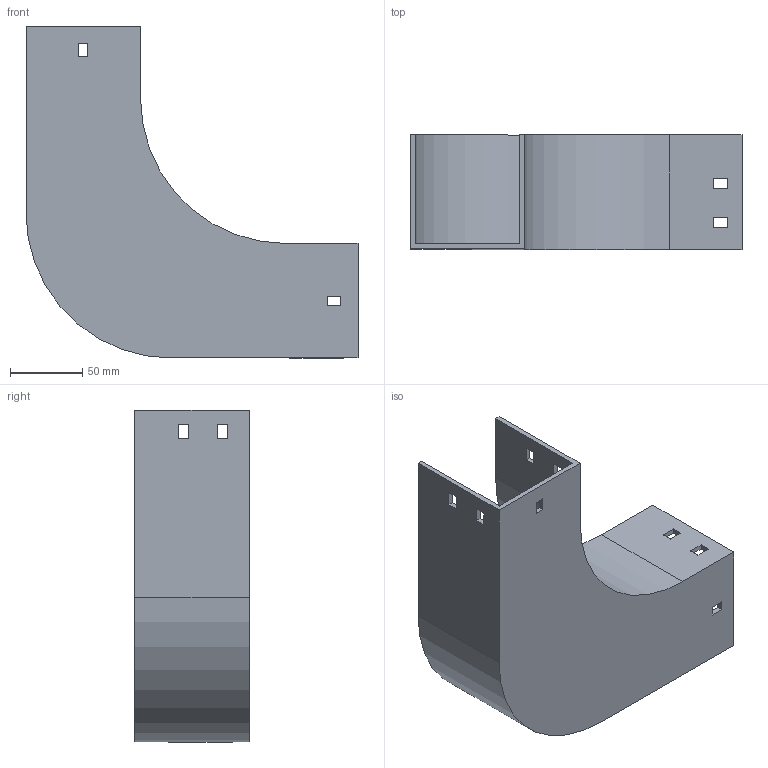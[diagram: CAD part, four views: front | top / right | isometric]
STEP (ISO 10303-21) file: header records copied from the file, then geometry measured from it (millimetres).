
FILE_DESCRIPTION (( 'STEP AP214' ), '1' );
FILE_NAME ('10B1C075.step', '2025-02-21T09:41:25', ( '' ), ( '' ), 'SwSTEP 2.0', 'SolidWorks 2023', '' );
FILE_SCHEMA (( 'AUTOMOTIVE_DESIGN' ));
Length unit declared in the file: millimetre
Products named in the file (1): 10B1C075
Bounding box: 229 x 79 x 229 mm (x, y, z)
Volume: 280042.1 mm3; surface area: 165155.6 mm2
Topology: 1 solids, 1 shells, 58 faces, 168 edges, 112 vertices
Faces by surface type: plane 54, cylinder 4
Entity records: 1943 total; most frequent: CARTESIAN_POINT 339, ORIENTED_EDGE 336, DIRECTION 294, EDGE_CURVE 168, LINE 160, VECTOR 160, VERTEX_POINT 112, EDGE_LOOP 78
